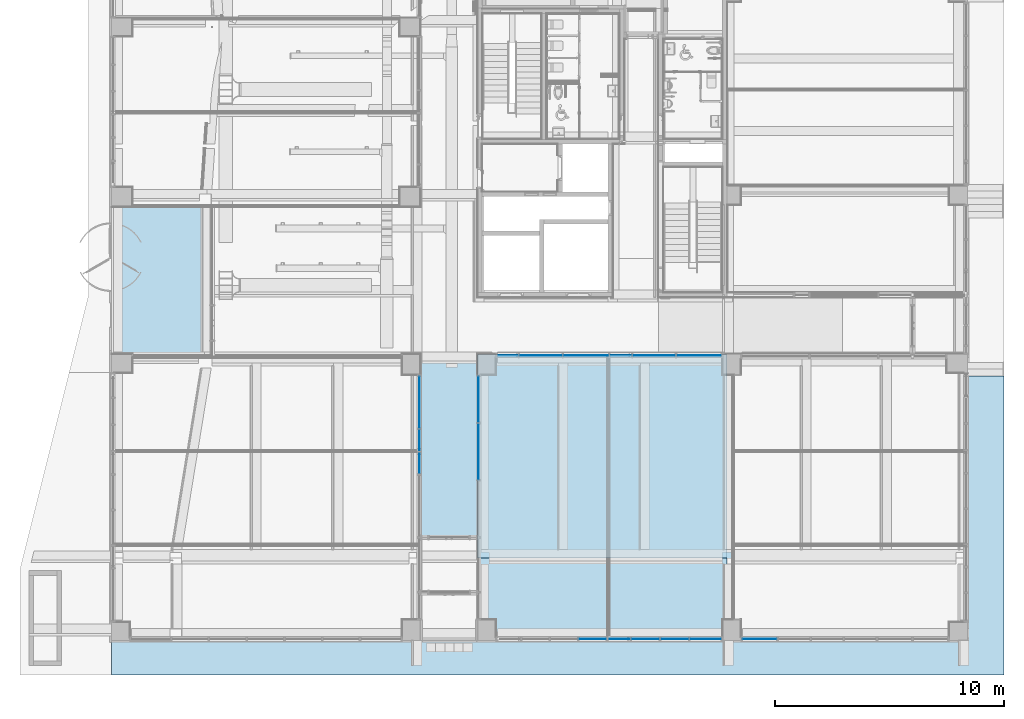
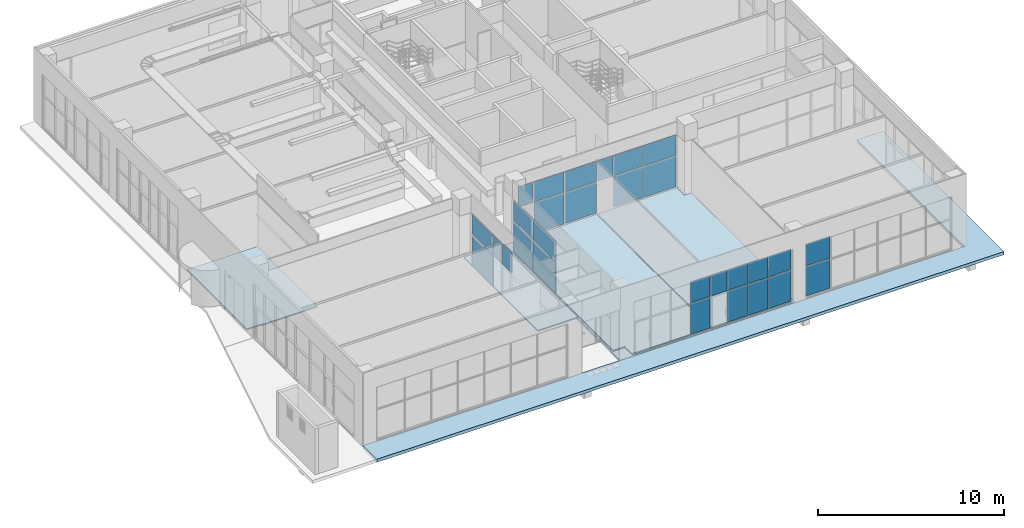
# One storey, part 23 of 100: 29 plates, 7 slabs, 5 elements without a shape of their own.
"""IFC2X3 building model written with IfcOpenShell, lengths in millimetres."""

from ifc_helpers import new_model, entity, si_unit, converted_unit, derived_unit, direction, frame, frame_2d, origin, origin_2d_with_axis, place, context, subcontext, project, spatial, polyline, rectangle, outline, extrude, source, transform, mapped, material, layer, layer_set, layer_usage, type_object, type_shapes, element, aggregate, save


model = new_model("IFC2X3")

# Units and contexts
model_context = context("Model", 3, precision=0.01, world=origin(), true_north=direction((6.123031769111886e-17, 1.0)))
body_context = subcontext(model_context, "Body", "Model", "MODEL_VIEW")
ifc_project = project(units=[si_unit("LENGTHUNIT", "METRE", prefix="MILLI"), si_unit("AREAUNIT", "SQUARE_METRE"), si_unit("VOLUMEUNIT", "CUBIC_METRE"), converted_unit("PLANEANGLEUNIT", "DEGREE", entity("IfcRatioMeasure", 0.017453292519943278), si_unit("PLANEANGLEUNIT", "RADIAN"), dimensions=[0, 0, 0, 0, 0, 0, 0]), si_unit("MASSUNIT", "GRAM", prefix="KILO"), derived_unit("MASSDENSITYUNIT", [(si_unit("MASSUNIT", "GRAM", prefix="KILO"), 1), (si_unit("LENGTHUNIT", "METRE"), -3)]), derived_unit("MOMENTOFINERTIAUNIT", [(si_unit("LENGTHUNIT", "METRE"), 4)]), si_unit("TIMEUNIT", "SECOND"), si_unit("FREQUENCYUNIT", "HERTZ"), si_unit("THERMODYNAMICTEMPERATUREUNIT", "DEGREE_CELSIUS"), derived_unit("THERMALTRANSMITTANCEUNIT", [(si_unit("MASSUNIT", "GRAM", prefix="KILO"), 1), (si_unit("THERMODYNAMICTEMPERATUREUNIT", "KELVIN"), -1), (si_unit("TIMEUNIT", "SECOND"), -3)]), derived_unit("VOLUMETRICFLOWRATEUNIT", [(si_unit("LENGTHUNIT", "METRE"), 3), (si_unit("TIMEUNIT", "SECOND"), -1)]), derived_unit("MASSFLOWRATEUNIT", [(si_unit("MASSUNIT", "GRAM", prefix="KILO"), 1), (si_unit("TIMEUNIT", "SECOND"), -1)]), derived_unit("ROTATIONALFREQUENCYUNIT", [(si_unit("TIMEUNIT", "SECOND"), -1)]), si_unit("ELECTRICCURRENTUNIT", "AMPERE"), si_unit("ELECTRICVOLTAGEUNIT", "VOLT"), si_unit("POWERUNIT", "WATT"), si_unit("FORCEUNIT", "NEWTON", prefix="KILO"), si_unit("ILLUMINANCEUNIT", "LUX"), si_unit("LUMINOUSFLUXUNIT", "LUMEN"), si_unit("LUMINOUSINTENSITYUNIT", "CANDELA"), derived_unit("USERDEFINED", [(si_unit("MASSUNIT", "GRAM", prefix="KILO"), -1), (si_unit("LENGTHUNIT", "METRE"), -2), (si_unit("TIMEUNIT", "SECOND"), 3), (si_unit("LUMINOUSFLUXUNIT", "LUMEN"), 1)]), derived_unit("SOUNDPOWERUNIT", [(si_unit("MASSUNIT", "GRAM", prefix="KILO"), 1), (si_unit("LENGTHUNIT", "METRE"), 2), (si_unit("TIMEUNIT", "SECOND"), -3)]), derived_unit("SOUNDPRESSUREUNIT", [(si_unit("MASSUNIT", "GRAM", prefix="KILO"), 1), (si_unit("LENGTHUNIT", "METRE"), -1), (si_unit("TIMEUNIT", "SECOND"), -2)]), derived_unit("LINEARVELOCITYUNIT", [(si_unit("LENGTHUNIT", "METRE"), 1), (si_unit("TIMEUNIT", "SECOND"), -1)]), si_unit("PRESSUREUNIT", "PASCAL"), derived_unit("USERDEFINED", [(si_unit("LENGTHUNIT", "METRE"), -2), (si_unit("MASSUNIT", "GRAM", prefix="KILO"), 1), (si_unit("TIMEUNIT", "SECOND"), -2)]), derived_unit("LINEARFORCEUNIT", [(si_unit("MASSUNIT", "GRAM", prefix="KILO"), 1), (si_unit("LENGTHUNIT", "METRE"), 1), (si_unit("TIMEUNIT", "SECOND"), -2), (si_unit("LENGTHUNIT", "METRE"), -1)]), derived_unit("PLANARFORCEUNIT", [(si_unit("MASSUNIT", "GRAM", prefix="KILO"), 1), (si_unit("LENGTHUNIT", "METRE"), 1), (si_unit("TIMEUNIT", "SECOND"), -2), (si_unit("LENGTHUNIT", "METRE"), -2)])], contexts=[model_context])

# Site, building, storey
site_placement = place(None, frame((-14167.972527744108, -657.2125860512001, 0.0)))
site = spatial("IfcSite", under=ifc_project, at=site_placement, Name="Default", CompositionType="ELEMENT")
building_placement = place(site_placement, origin())
building = spatial("IfcBuilding", under=site, at=building_placement, Name="Sample Building", CompositionType="ELEMENT")
storey_placement = place(building_placement, origin())
storey = spatial("IfcBuildingStorey", under=building, at=storey_placement, Name="지상 1층", CompositionType="ELEMENT", Elevation=0.0)

# Slabs
ifc_material_1 = material(Name="KBIMS-콘크리트")
ifc_layer_1 = layer(ifc_material_1, 150.0)
ifc_layer_set_1 = layer_set([ifc_layer_1], Name="바닥:SL111-철근콘크리트구조 바닥 150mm_S2")
ifc_layer_usage_1 = layer_usage(ifc_layer_set_1, "AXIS3", "POSITIVE", 0.0)
slab_type_1 = type_object("IfcSlabType", Name="바닥:SL111-철근콘크리트구조 바닥 150mm_S2", PredefinedType="FLOOR", material=ifc_layer_set_1)
slab_1_placement = place(storey_placement, origin())
element("IfcSlab", 1, at=slab_1_placement, inside=storey, type_object=slab_type_1, material=ifc_layer_usage_1, Name="바닥:SL111-철근콘크리트구조 바닥 150mm_S2", ObjectType="바닥:SL111-철근콘크리트구조 바닥 150mm_S2", PredefinedType="FLOOR", context=body_context, shape_type="SweptSolid", body=[
    extrude(rectangle(XDim=8899.999999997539, YDim=10900.008692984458, at=frame_2d((0.0, -8.640199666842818e-12), x_axis=(1.0, 0.0))), frame((35517.95945165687, 8607.212383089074, 0.0), z_axis=(0.0, 0.0, -1.0), x_axis=(0.0, 1.0, 0.0)), (0.0, 0.0, 1.0), 150.0),
])
ifc_material_2 = material(Name="SL341-테라조 바닥 (바탕48mm, 마감32mm)")
ifc_layer_2 = layer(ifc_material_2, 80.0)
ifc_layer_set_2 = layer_set([ifc_layer_2], Name="바닥:A1-14-06B-테라조타일 (80mm)")
ifc_layer_usage_2 = layer_usage(ifc_layer_set_2, "AXIS3", "POSITIVE", 0.0)
slab_type_2 = type_object("IfcSlabType", Name="바닥:A1-14-06B-테라조타일 (80mm)", PredefinedType="FLOOR", material=ifc_layer_set_2)
slab_2_placement = place(storey_placement, origin())
element("IfcSlab", 2, at=slab_2_placement, inside=storey, type_object=slab_type_2, material=ifc_layer_usage_2, Name="바닥:A1-14-06B-테라조타일 (80mm)", ObjectType="바닥:A1-14-06B-테라조타일 (80mm)", PredefinedType="FLOOR", context=body_context, shape_type="SweptSolid", body=[
    extrude(outline(polyline([(-5358.75006630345, -1754.3739133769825), (5341.249933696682, -1754.3739133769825), (5341.249933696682, -1044.3739133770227), (6151.250211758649, -1044.3739133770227), (6151.250211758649, 3843.1217401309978), (-6133.750079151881, 3843.1217401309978), (-6133.750079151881, -1044.373913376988), (-5358.75006630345, -1044.373913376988), (-5358.75006630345, -1754.3739133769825)])), frame((31912.346404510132, 6815.962374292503, 80.0), z_axis=(0.0, 0.0, -1.0), x_axis=(0.0, 1.0, 0.0)), (0.0, 0.0, 1.0), 80.0),
])
ifc_material_3 = material(Name="SL312-화강석물갈기 바닥 (바탕30mm, 마감30mm)")
ifc_layer_3 = layer(ifc_material_3, 80.0)
ifc_layer_set_3 = layer_set([ifc_layer_3], Name="바닥:A1-15-01B-화강석(물갈기) (80mm)")
ifc_layer_usage_3 = layer_usage(ifc_layer_set_3, "AXIS3", "POSITIVE", 0.0)
slab_type_3 = type_object("IfcSlabType", Name="바닥:A1-15-01B-화강석(물갈기) (80mm)", PredefinedType="FLOOR", material=ifc_layer_set_3)
slab_3_placement = place(storey_placement, origin())
element("IfcSlab", 3, at=slab_3_placement, inside=storey, type_object=slab_type_3, material=ifc_layer_usage_3, Name="바닥:A1-15-01B-화강석(물갈기) (80mm)", ObjectType="바닥:A1-15-01B-화강석(물갈기) (80mm)", PredefinedType="FLOOR", context=body_context, shape_type="SweptSolid", body=[
    extrude(rectangle(XDim=7950.034670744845, YDim=2499.9999999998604, at=frame_2d((1.8189894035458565e-12, 0.0), x_axis=(1.0, 0.0))), frame((28817.972491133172, 9082.194959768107, 80.0), z_axis=(0.0, 0.0, -1.0), x_axis=(0.0, 1.0, 0.0)), (0.0, 0.0, 1.0), 80.0),
])

# Curtain wall, plates
curtain_wall_type = type_object("IfcCurtainWallType", Name="커튼월:CW112-스테인리스 스틸 커튼월", PredefinedType="NOTDEFINED")
curtain_wall_1_placement = place(storey_placement, origin())
curtain_wall_1 = element("IfcCurtainWall", 4, at=curtain_wall_1_placement, inside=storey, type_object=curtain_wall_type, Name="커튼월:CW112-스테인리스 스틸 커튼월", ObjectType="커튼월:CW112-스테인리스 스틸 커튼월")
ifc_material_4 = material(Name="KBIMS-로이유리(코팅)")
plate_type_1 = type_object("IfcPlateType", Name="CW300-THK24.Low-e coating glass:CW300-THK24.Low-e coating glass", PredefinedType="CURTAIN_PANEL", material=ifc_material_4)
shared_shape_1 = source(origin(), body_context, "Body", "SweptSolid", [
    extrude(rectangle(XDim=950.0000000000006, YDim=24.000000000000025, at=origin_2d_with_axis()), frame((0.0, 0.0, 0.0), z_axis=(0.0, 0.0, 1.0), x_axis=(-1.0, 0.0, 0.0)), (0.0, 0.0, 1.0), 1345.000000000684),
])
type_shapes(plate_type_1, [shared_shape_1])
plate_1_placement = place(curtain_wall_1_placement, frame((27522.955141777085, 8307.212330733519, 2205.0), z_axis=(0.0, 0.0, 1.0), x_axis=(0.0, 1.0, 0.0)))
plate_1 = element("IfcPlate", 5, at=plate_1_placement, type_object=plate_type_1, material=ifc_material_4, Name="CW300-THK24.Low-e coating glass:CW300-THK24.Low-e coating glass", ObjectType="CW300-THK24.Low-e coating glass:CW300-THK24.Low-e coating glass", context=body_context, shape_type="MappedRepresentation", body=[
    mapped(shared_shape_1, transform((0.0, 0.0, 0.0), scale=1.0)),
])
plate_2_placement = place(curtain_wall_1_placement, frame((27522.95514177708, 9307.212330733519, 2205.0), z_axis=(0.0, 0.0, 1.0), x_axis=(0.0, 1.0, 0.0)))
plate_2 = element("IfcPlate", 6, at=plate_2_placement, type_object=plate_type_1, material=ifc_material_4, Name="CW300-THK24.Low-e coating glass:CW300-THK24.Low-e coating glass", ObjectType="CW300-THK24.Low-e coating glass:CW300-THK24.Low-e coating glass", context=body_context, shape_type="MappedRepresentation", body=[
    mapped(shared_shape_1, transform((0.0, 0.0, 0.0), scale=1.0)),
])

# Curtain wall, plate
curtain_wall_2_placement = place(storey_placement, origin())
curtain_wall_2 = element("IfcCurtainWall", 7, at=curtain_wall_2_placement, inside=storey, type_object=curtain_wall_type, Name="커튼월:CW112-스테인리스 스틸 커튼월", ObjectType="커튼월:CW112-스테인리스 스틸 커튼월")
plate_3_placement = place(curtain_wall_2_placement, frame((36317.97249113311, 13012.212586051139, 2205.0)))
plate_3 = element("IfcPlate", 8, at=plate_3_placement, type_object=plate_type_1, material=ifc_material_4, Name="CW300-THK24.Low-e coating glass:CW300-THK24.Low-e coating glass", ObjectType="CW300-THK24.Low-e coating glass:CW300-THK24.Low-e coating glass", context=body_context, shape_type="MappedRepresentation", body=[
    mapped(shared_shape_1, transform((0.0, 0.0, 0.0), scale=1.0)),
])

# Curtain wall, plates
curtain_wall_3_placement = place(storey_placement, origin())
curtain_wall_3 = element("IfcCurtainWall", 9, at=curtain_wall_3_placement, inside=storey, type_object=curtain_wall_type, Name="커튼월:CW112-스테인리스 스틸 커튼월", ObjectType="커튼월:CW112-스테인리스 스틸 커튼월")
plate_type_2 = type_object("IfcPlateType", Name="CW300-THK24.Low-e coating glass:CW300-THK24.Low-e coating glass", PredefinedType="CURTAIN_PANEL", material=ifc_material_4)
shared_shape_2 = source(origin(), body_context, "Body", "SweptSolid", [
    extrude(rectangle(XDim=1200.000000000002, YDim=24.000000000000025, at=origin_2d_with_axis()), frame((0.0, 0.0, 0.0), z_axis=(0.0, 0.0, 1.0), x_axis=(-1.0, 0.0, 0.0)), (0.0, 0.0, 1.0), 2024.9999999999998),
])
type_shapes(plate_type_2, [shared_shape_2])
plate_4_placement = place(curtain_wall_3_placement, frame((35092.97249113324, 619.7122951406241, 130.0)))
plate_4 = element("IfcPlate", 10, at=plate_4_placement, type_object=plate_type_2, material=ifc_material_4, Name="CW300-THK24.Low-e coating glass:CW300-THK24.Low-e coating glass", ObjectType="CW300-THK24.Low-e coating glass:CW300-THK24.Low-e coating glass", context=body_context, shape_type="MappedRepresentation", body=[
    mapped(shared_shape_2, transform((0.0, 0.0, 0.0), scale=1.0)),
])
plate_type_3 = type_object("IfcPlateType", Name="CW300-THK24.Low-e coating glass:CW300-THK24.Low-e coating glass", PredefinedType="CURTAIN_PANEL", material=ifc_material_4)
shared_shape_3 = source(origin(), body_context, "Body", "SweptSolid", [
    extrude(rectangle(XDim=1230.0000000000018, YDim=24.000000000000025, at=origin_2d_with_axis()), frame((0.0, 0.0, 0.0), z_axis=(0.0, 0.0, 1.0), x_axis=(-1.0, 0.0, 0.0)), (0.0, 0.0, 1.0), 2024.9999999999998),
])
type_shapes(plate_type_3, [shared_shape_3])
plate_5_placement = place(curtain_wall_3_placement, frame((37397.972491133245, 619.7122951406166, 130.0)))
plate_5 = element("IfcPlate", 11, at=plate_5_placement, type_object=plate_type_3, material=ifc_material_4, Name="CW300-THK24.Low-e coating glass:CW300-THK24.Low-e coating glass", ObjectType="CW300-THK24.Low-e coating glass:CW300-THK24.Low-e coating glass", context=body_context, shape_type="MappedRepresentation", body=[
    mapped(shared_shape_3, transform((0.0, 0.0, 0.0), scale=1.0)),
])
plate_6_placement = place(curtain_wall_3_placement, frame((38677.97249113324, 619.7122951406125, 130.0)))
plate_6 = element("IfcPlate", 12, at=plate_6_placement, type_object=plate_type_3, material=ifc_material_4, Name="CW300-THK24.Low-e coating glass:CW300-THK24.Low-e coating glass", ObjectType="CW300-THK24.Low-e coating glass:CW300-THK24.Low-e coating glass", context=body_context, shape_type="MappedRepresentation", body=[
    mapped(shared_shape_3, transform((0.0, 0.0, 0.0), scale=1.0)),
])
plate_type_4 = type_object("IfcPlateType", Name="CW300-THK24.Low-e coating glass:CW300-THK24.Low-e coating glass", PredefinedType="CURTAIN_PANEL", material=ifc_material_4)
shared_shape_4 = source(origin(), body_context, "Body", "SweptSolid", [
    extrude(rectangle(XDim=1375.0000000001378, YDim=24.000000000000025, at=origin_2d_with_axis()), frame((0.0, 0.0, 0.0), z_axis=(0.0, 0.0, 1.0), x_axis=(-1.0, 0.0, 0.0)), (0.0, 0.0, 1.0), 2024.9999999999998),
])
type_shapes(plate_type_4, [shared_shape_4])
plate_7_placement = place(curtain_wall_3_placement, frame((40030.47249113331, 619.712295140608, 130.0)))
plate_7 = element("IfcPlate", 13, at=plate_7_placement, type_object=plate_type_4, material=ifc_material_4, Name="CW300-THK24.Low-e coating glass:CW300-THK24.Low-e coating glass", ObjectType="CW300-THK24.Low-e coating glass:CW300-THK24.Low-e coating glass", context=body_context, shape_type="MappedRepresentation", body=[
    mapped(shared_shape_4, transform((0.0, 0.0, 0.0), scale=1.0)),
])
plate_type_5 = type_object("IfcPlateType", Name="CW300-THK24.Low-e coating glass:CW300-THK24.Low-e coating glass", PredefinedType="CURTAIN_PANEL", material=ifc_material_4)
shared_shape_5 = source(origin(), body_context, "Body", "SweptSolid", [
    extrude(rectangle(XDim=1200.000000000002, YDim=24.000000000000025, at=origin_2d_with_axis()), frame((0.0, 0.0, 0.0), z_axis=(0.0, 0.0, 1.0), x_axis=(-1.0, 0.0, 0.0)), (0.0, 0.0, 1.0), 1345.000000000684),
])
type_shapes(plate_type_5, [shared_shape_5])
plate_8_placement = place(curtain_wall_3_placement, frame((35092.97249113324, 619.7122951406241, 2205.0)))
plate_8 = element("IfcPlate", 14, at=plate_8_placement, type_object=plate_type_5, material=ifc_material_4, Name="CW300-THK24.Low-e coating glass:CW300-THK24.Low-e coating glass", ObjectType="CW300-THK24.Low-e coating glass:CW300-THK24.Low-e coating glass", context=body_context, shape_type="MappedRepresentation", body=[
    mapped(shared_shape_5, transform((0.0, 0.0, 0.0), scale=1.0)),
])
plate_type_6 = type_object("IfcPlateType", Name="CW300-THK24.Low-e coating glass:CW300-THK24.Low-e coating glass", PredefinedType="CURTAIN_PANEL", material=ifc_material_4)
shared_shape_6 = source(origin(), body_context, "Body", "SweptSolid", [
    extrude(rectangle(XDim=990.0000000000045, YDim=24.000000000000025, at=origin_2d_with_axis()), frame((0.0, 0.0, 0.0), z_axis=(0.0, 0.0, 1.0), x_axis=(-1.0, 0.0, 0.0)), (0.0, 0.0, 1.0), 1345.0000000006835),
])
type_shapes(plate_type_6, [shared_shape_6])
plate_9_placement = place(curtain_wall_3_placement, frame((36237.97249113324, 619.7122951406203, 2205.0)))
plate_9 = element("IfcPlate", 15, at=plate_9_placement, type_object=plate_type_6, material=ifc_material_4, Name="CW300-THK24.Low-e coating glass:CW300-THK24.Low-e coating glass", ObjectType="CW300-THK24.Low-e coating glass:CW300-THK24.Low-e coating glass", context=body_context, shape_type="MappedRepresentation", body=[
    mapped(shared_shape_6, transform((0.0, 0.0, 0.0), scale=1.0)),
])
plate_type_7 = type_object("IfcPlateType", Name="CW300-THK24.Low-e coating glass:CW300-THK24.Low-e coating glass", PredefinedType="CURTAIN_PANEL", material=ifc_material_4)
shared_shape_7 = source(origin(), body_context, "Body", "SweptSolid", [
    extrude(rectangle(XDim=1230.0000000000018, YDim=24.000000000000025, at=origin_2d_with_axis()), frame((0.0, 0.0, 0.0), z_axis=(0.0, 0.0, 1.0), x_axis=(-1.0, 0.0, 0.0)), (0.0, 0.0, 1.0), 1345.0000000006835),
])
type_shapes(plate_type_7, [shared_shape_7])
plate_10_placement = place(curtain_wall_3_placement, frame((37397.972491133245, 619.7122951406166, 2205.0)))
plate_10 = element("IfcPlate", 16, at=plate_10_placement, type_object=plate_type_7, material=ifc_material_4, Name="CW300-THK24.Low-e coating glass:CW300-THK24.Low-e coating glass", ObjectType="CW300-THK24.Low-e coating glass:CW300-THK24.Low-e coating glass", context=body_context, shape_type="MappedRepresentation", body=[
    mapped(shared_shape_7, transform((0.0, 0.0, 0.0), scale=1.0)),
])
plate_11_placement = place(curtain_wall_3_placement, frame((38677.97249113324, 619.7122951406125, 2205.0)))
plate_11 = element("IfcPlate", 17, at=plate_11_placement, type_object=plate_type_7, material=ifc_material_4, Name="CW300-THK24.Low-e coating glass:CW300-THK24.Low-e coating glass", ObjectType="CW300-THK24.Low-e coating glass:CW300-THK24.Low-e coating glass", context=body_context, shape_type="MappedRepresentation", body=[
    mapped(shared_shape_7, transform((0.0, 0.0, 0.0), scale=1.0)),
])
plate_type_8 = type_object("IfcPlateType", Name="CW300-THK24.Low-e coating glass:CW300-THK24.Low-e coating glass", PredefinedType="CURTAIN_PANEL", material=ifc_material_4)
shared_shape_8 = source(origin(), body_context, "Body", "SweptSolid", [
    extrude(rectangle(XDim=1375.0000000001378, YDim=24.000000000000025, at=origin_2d_with_axis()), frame((0.0, 0.0, 0.0), z_axis=(0.0, 0.0, 1.0), x_axis=(-1.0, 0.0, 0.0)), (0.0, 0.0, 1.0), 1345.0000000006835),
])
type_shapes(plate_type_8, [shared_shape_8])
plate_12_placement = place(curtain_wall_3_placement, frame((40030.47249113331, 619.712295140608, 2205.0)))
plate_12 = element("IfcPlate", 18, at=plate_12_placement, type_object=plate_type_8, material=ifc_material_4, Name="CW300-THK24.Low-e coating glass:CW300-THK24.Low-e coating glass", ObjectType="CW300-THK24.Low-e coating glass:CW300-THK24.Low-e coating glass", context=body_context, shape_type="MappedRepresentation", body=[
    mapped(shared_shape_8, transform((0.0, 0.0, 0.0), scale=1.0)),
])
aggregate(curtain_wall_3, [plate_4, plate_5, plate_6, plate_7, plate_8, plate_9, plate_10, plate_11, plate_12])

curtain_wall_4_placement = place(storey_placement, origin())
curtain_wall_4 = element("IfcCurtainWall", 19, at=curtain_wall_4_placement, inside=storey, type_object=curtain_wall_type, Name="커튼월:CW112-스테인리스 스틸 커튼월", ObjectType="커튼월:CW112-스테인리스 스틸 커튼월")
plate_type_9 = type_object("IfcPlateType", Name="CW300-THK24.Low-e coating glass:CW300-THK24.Low-e coating glass", PredefinedType="CURTAIN_PANEL", material=ifc_material_4)
shared_shape_9 = source(origin(), body_context, "Body", "SweptSolid", [
    extrude(rectangle(XDim=1507.3538077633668, YDim=24.000000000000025, at=origin_2d_with_axis()), frame((0.0, 0.0, 0.0), z_axis=(0.0, 0.0, 1.0), x_axis=(-1.0, 0.0, 0.0)), (0.0, 0.0, 1.0), 1924.9999999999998),
])
type_shapes(plate_type_9, [shared_shape_9])
plate_13_placement = place(curtain_wall_4_placement, frame((42389.64939501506, 619.712295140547, 130.0)))
plate_13 = element("IfcPlate", 20, at=plate_13_placement, type_object=plate_type_9, material=ifc_material_4, Name="CW300-THK24.Low-e coating glass:CW300-THK24.Low-e coating glass", ObjectType="CW300-THK24.Low-e coating glass:CW300-THK24.Low-e coating glass", context=body_context, shape_type="MappedRepresentation", body=[
    mapped(shared_shape_9, transform((0.0, 0.0, 0.0), scale=1.0)),
])
plate_type_10 = type_object("IfcPlateType", Name="CW300-THK24.Low-e coating glass:CW300-THK24.Low-e coating glass", PredefinedType="CURTAIN_PANEL", material=ifc_material_4)
shared_shape_10 = source(origin(), body_context, "Body", "SweptSolid", [
    extrude(rectangle(XDim=1507.3538077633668, YDim=24.000000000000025, at=origin_2d_with_axis()), frame((0.0, 0.0, 0.0), z_axis=(0.0, 0.0, 1.0), x_axis=(-1.0, 0.0, 0.0)), (0.0, 0.0, 1.0), 1445.000000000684),
])
type_shapes(plate_type_10, [shared_shape_10])
plate_14_placement = place(curtain_wall_4_placement, frame((42389.64939501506, 619.712295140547, 2105.0)))
plate_14 = element("IfcPlate", 21, at=plate_14_placement, type_object=plate_type_10, material=ifc_material_4, Name="CW300-THK24.Low-e coating glass:CW300-THK24.Low-e coating glass", ObjectType="CW300-THK24.Low-e coating glass:CW300-THK24.Low-e coating glass", context=body_context, shape_type="MappedRepresentation", body=[
    mapped(shared_shape_10, transform((0.0, 0.0, 0.0), scale=1.0)),
])
aggregate(curtain_wall_4, [plate_13, plate_14])

# Plate
plate_type_11 = type_object("IfcPlateType", Name="CW300-THK24.Low-e coating glass:CW300-THK24.Low-e coating glass", PredefinedType="CURTAIN_PANEL", material=ifc_material_4)
shared_shape_11 = source(origin(), body_context, "Body", "SweptSolid", [
    extrude(rectangle(XDim=2275.0002863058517, YDim=24.000000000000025, at=origin_2d_with_axis()), frame((0.0, 0.0, 0.0), z_axis=(0.0, 0.0, 1.0), x_axis=(-1.0, 0.0, 0.0)), (0.0, 0.0, 1.0), 2025.0000000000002),
])
type_shapes(plate_type_11, [shared_shape_11])
plate_15_placement = place(curtain_wall_1_placement, frame((27522.955141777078, 10969.712473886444, 130.0), z_axis=(0.0, 0.0, 1.0), x_axis=(0.0, 1.0, 0.0)))
plate_15 = element("IfcPlate", 22, at=plate_15_placement, type_object=plate_type_11, material=ifc_material_4, Name="CW300-THK24.Low-e coating glass:CW300-THK24.Low-e coating glass", ObjectType="CW300-THK24.Low-e coating glass:CW300-THK24.Low-e coating glass", context=body_context, shape_type="MappedRepresentation", body=[
    mapped(shared_shape_11, transform((0.0, 0.0, 0.0), scale=1.0)),
])

plate_type_12 = type_object("IfcPlateType", Name="CW300-THK24.Low-e coating glass:CW300-THK24.Low-e coating glass", PredefinedType="CURTAIN_PANEL", material=ifc_material_4)
shared_shape_12 = source(origin(), body_context, "Body", "SweptSolid", [
    extrude(rectangle(XDim=2275.0002863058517, YDim=24.000000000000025, at=origin_2d_with_axis()), frame((0.0, 0.0, 0.0), z_axis=(0.0, 0.0, 1.0), x_axis=(-1.0, 0.0, 0.0)), (0.0, 0.0, 1.0), 1345.0000000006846),
])
type_shapes(plate_type_12, [shared_shape_12])
plate_16_placement = place(curtain_wall_1_placement, frame((27522.955141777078, 10969.712473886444, 2205.0), z_axis=(0.0, 0.0, 1.0), x_axis=(0.0, 1.0, 0.0)))
plate_16 = element("IfcPlate", 23, at=plate_16_placement, type_object=plate_type_12, material=ifc_material_4, Name="CW300-THK24.Low-e coating glass:CW300-THK24.Low-e coating glass", ObjectType="CW300-THK24.Low-e coating glass:CW300-THK24.Low-e coating glass", context=body_context, shape_type="MappedRepresentation", body=[
    mapped(shared_shape_12, transform((0.0, 0.0, 0.0), scale=1.0)),
])

aggregate(curtain_wall_1, [plate_15, plate_1, plate_2, plate_16])

# Curtain wall, plates
curtain_wall_5_placement = place(storey_placement, origin())
curtain_wall_5 = element("IfcCurtainWall", 24, at=curtain_wall_5_placement, inside=storey, type_object=curtain_wall_type, Name="커튼월:CW112-스테인리스 스틸 커튼월", ObjectType="커튼월:CW112-스테인리스 스틸 커튼월")
plate_type_13 = type_object("IfcPlateType", Name="CW300-THK24.Low-e coating glass:CW300-THK24.Low-e coating glass", PredefinedType="CURTAIN_PANEL", material=ifc_material_4)
shared_shape_13 = source(origin(), body_context, "Body", "SweptSolid", [
    extrude(rectangle(XDim=2025.0002863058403, YDim=24.000000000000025, at=origin_2d_with_axis()), frame((0.0, 0.0, 0.0), z_axis=(0.0, 0.0, 1.0), x_axis=(-1.0, 0.0, 0.0)), (0.0, 0.0, 1.0), 2024.9999999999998),
])
type_shapes(plate_type_13, [shared_shape_13])
plate_17_placement = place(curtain_wall_5_placement, frame((30112.97249113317, 11094.712473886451, 130.0), z_axis=(0.0, 0.0, 1.0), x_axis=(0.0, -1.0, 0.0)))
plate_17 = element("IfcPlate", 25, at=plate_17_placement, type_object=plate_type_13, material=ifc_material_4, Name="CW300-THK24.Low-e coating glass:CW300-THK24.Low-e coating glass", ObjectType="CW300-THK24.Low-e coating glass:CW300-THK24.Low-e coating glass", context=body_context, shape_type="MappedRepresentation", body=[
    mapped(shared_shape_13, transform((0.0, 0.0, 0.0), scale=1.0)),
])
plate_type_14 = type_object("IfcPlateType", Name="CW300-THK24.Low-e coating glass:CW300-THK24.Low-e coating glass", PredefinedType="CURTAIN_PANEL", material=ifc_material_4)
shared_shape_14 = source(origin(), body_context, "Body", "SweptSolid", [
    extrude(rectangle(XDim=2449.9999999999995, YDim=24.000000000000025, at=origin_2d_with_axis()), frame((0.0, 0.0, 0.0), z_axis=(0.0, 0.0, 1.0), x_axis=(-1.0, 0.0, 0.0)), (0.0, 0.0, 1.0), 2024.9999999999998),
])
type_shapes(plate_type_14, [shared_shape_14])
plate_18_placement = place(curtain_wall_5_placement, frame((30112.972491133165, 8807.212330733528, 130.0), z_axis=(0.0, 0.0, 1.0), x_axis=(0.0, -1.0, 0.0)))
plate_18 = element("IfcPlate", 26, at=plate_18_placement, type_object=plate_type_14, material=ifc_material_4, Name="CW300-THK24.Low-e coating glass:CW300-THK24.Low-e coating glass", ObjectType="CW300-THK24.Low-e coating glass:CW300-THK24.Low-e coating glass", context=body_context, shape_type="MappedRepresentation", body=[
    mapped(shared_shape_14, transform((0.0, 0.0, 0.0), scale=1.0)),
])
plate_type_15 = type_object("IfcPlateType", Name="CW300-THK24.Low-e coating glass:CW300-THK24.Low-e coating glass", PredefinedType="CURTAIN_PANEL", material=ifc_material_4)
shared_shape_15 = source(origin(), body_context, "Body", "SweptSolid", [
    extrude(rectangle(XDim=2025.0002863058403, YDim=24.000000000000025, at=origin_2d_with_axis()), frame((0.0, 0.0, 0.0), z_axis=(0.0, 0.0, 1.0), x_axis=(-1.0, 0.0, 0.0)), (0.0, 0.0, 1.0), 1345.0000000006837),
])
type_shapes(plate_type_15, [shared_shape_15])
plate_19_placement = place(curtain_wall_5_placement, frame((30112.97249113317, 11094.712473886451, 2205.0), z_axis=(0.0, 0.0, 1.0), x_axis=(0.0, -1.0, 0.0)))
plate_19 = element("IfcPlate", 27, at=plate_19_placement, type_object=plate_type_15, material=ifc_material_4, Name="CW300-THK24.Low-e coating glass:CW300-THK24.Low-e coating glass", ObjectType="CW300-THK24.Low-e coating glass:CW300-THK24.Low-e coating glass", context=body_context, shape_type="MappedRepresentation", body=[
    mapped(shared_shape_15, transform((0.0, 0.0, 0.0), scale=1.0)),
])
plate_type_16 = type_object("IfcPlateType", Name="CW300-THK24.Low-e coating glass:CW300-THK24.Low-e coating glass", PredefinedType="CURTAIN_PANEL", material=ifc_material_4)
shared_shape_16 = source(origin(), body_context, "Body", "SweptSolid", [
    extrude(rectangle(XDim=2450.000000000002, YDim=24.000000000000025, at=origin_2d_with_axis()), frame((0.0, 0.0, 0.0), z_axis=(0.0, 0.0, 1.0), x_axis=(-1.0, 0.0, 0.0)), (0.0, 0.0, 1.0), 1345.000000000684),
])
type_shapes(plate_type_16, [shared_shape_16])
plate_20_placement = place(curtain_wall_5_placement, frame((30112.972491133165, 8807.212330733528, 2205.0), z_axis=(0.0, 0.0, 1.0), x_axis=(0.0, -1.0, 0.0)))
plate_20 = element("IfcPlate", 28, at=plate_20_placement, type_object=plate_type_16, material=ifc_material_4, Name="CW300-THK24.Low-e coating glass:CW300-THK24.Low-e coating glass", ObjectType="CW300-THK24.Low-e coating glass:CW300-THK24.Low-e coating glass", context=body_context, shape_type="MappedRepresentation", body=[
    mapped(shared_shape_16, transform((0.0, 0.0, 0.0), scale=1.0)),
])
aggregate(curtain_wall_5, [plate_17, plate_18, plate_19, plate_20])

# Plate
plate_type_17 = type_object("IfcPlateType", Name="CW300-THK24.Low-e coating glass:CW300-THK24.Low-e coating glass", PredefinedType="CURTAIN_PANEL", material=ifc_material_4)
shared_shape_17 = source(origin(), body_context, "Body", "SweptSolid", [
    extrude(rectangle(XDim=1875.0000000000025, YDim=24.000000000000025, at=origin_2d_with_axis()), frame((0.0, 0.0, 0.0), z_axis=(0.0, 0.0, 1.0), x_axis=(-1.0, 0.0, 0.0)), (0.0, 0.0, 1.0), 2024.9999999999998),
])
type_shapes(plate_type_17, [shared_shape_17])
plate_21_placement = place(curtain_wall_2_placement, frame((32830.472491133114, 13012.21258605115, 130.0)))
plate_21 = element("IfcPlate", 29, at=plate_21_placement, type_object=plate_type_17, material=ifc_material_4, Name="CW300-THK24.Low-e coating glass:CW300-THK24.Low-e coating glass", ObjectType="CW300-THK24.Low-e coating glass:CW300-THK24.Low-e coating glass", context=body_context, shape_type="MappedRepresentation", body=[
    mapped(shared_shape_17, transform((0.0, 0.0, 0.0), scale=1.0)),
])

plate_type_18 = type_object("IfcPlateType", Name="CW300-THK24.Low-e coating glass:CW300-THK24.Low-e coating glass", PredefinedType="CURTAIN_PANEL", material=ifc_material_4)
shared_shape_18 = source(origin(), body_context, "Body", "SweptSolid", [
    extrude(rectangle(XDim=1975.0000000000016, YDim=24.000000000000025, at=origin_2d_with_axis()), frame((0.0, 0.0, 0.0), z_axis=(0.0, 0.0, 1.0), x_axis=(-1.0, 0.0, 0.0)), (0.0, 0.0, 1.0), 2024.9999999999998),
])
type_shapes(plate_type_18, [shared_shape_18])
plate_22_placement = place(curtain_wall_2_placement, frame((34805.472491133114, 13012.212586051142, 130.0)))
plate_22 = element("IfcPlate", 30, at=plate_22_placement, type_object=plate_type_18, material=ifc_material_4, Name="CW300-THK24.Low-e coating glass:CW300-THK24.Low-e coating glass", ObjectType="CW300-THK24.Low-e coating glass:CW300-THK24.Low-e coating glass", context=body_context, shape_type="MappedRepresentation", body=[
    mapped(shared_shape_18, transform((0.0, 0.0, 0.0), scale=1.0)),
])

plate_type_19 = type_object("IfcPlateType", Name="CW300-THK24.Low-e coating glass:CW300-THK24.Low-e coating glass", PredefinedType="CURTAIN_PANEL", material=ifc_material_4)
shared_shape_19 = source(origin(), body_context, "Body", "SweptSolid", [
    extrude(rectangle(XDim=1865.0000000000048, YDim=24.000000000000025, at=origin_2d_with_axis()), frame((0.0, 0.0, 0.0), z_axis=(0.0, 0.0, 1.0), x_axis=(-1.0, 0.0, 0.0)), (0.0, 0.0, 1.0), 2024.9999999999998),
])
type_shapes(plate_type_19, [shared_shape_19])
plate_23_placement = place(curtain_wall_2_placement, frame((37775.47249113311, 13012.212586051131, 130.0)))
plate_23 = element("IfcPlate", 31, at=plate_23_placement, type_object=plate_type_19, material=ifc_material_4, Name="CW300-THK24.Low-e coating glass:CW300-THK24.Low-e coating glass", ObjectType="CW300-THK24.Low-e coating glass:CW300-THK24.Low-e coating glass", context=body_context, shape_type="MappedRepresentation", body=[
    mapped(shared_shape_19, transform((0.0, 0.0, 0.0), scale=1.0)),
])

plate_type_20 = type_object("IfcPlateType", Name="CW300-THK24.Low-e coating glass:CW300-THK24.Low-e coating glass", PredefinedType="CURTAIN_PANEL", material=ifc_material_4)
shared_shape_20 = source(origin(), body_context, "Body", "SweptSolid", [
    extrude(rectangle(XDim=1960.000000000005, YDim=24.000000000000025, at=origin_2d_with_axis()), frame((0.0, 0.0, 0.0), z_axis=(0.0, 0.0, 1.0), x_axis=(-1.0, 0.0, 0.0)), (0.0, 0.0, 1.0), 2024.9999999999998),
])
type_shapes(plate_type_20, [shared_shape_20])
plate_24_placement = place(curtain_wall_2_placement, frame((39737.972491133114, 13012.212586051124, 130.0)))
plate_24 = element("IfcPlate", 32, at=plate_24_placement, type_object=plate_type_20, material=ifc_material_4, Name="CW300-THK24.Low-e coating glass:CW300-THK24.Low-e coating glass", ObjectType="CW300-THK24.Low-e coating glass:CW300-THK24.Low-e coating glass", context=body_context, shape_type="MappedRepresentation", body=[
    mapped(shared_shape_20, transform((0.0, 0.0, 0.0), scale=1.0)),
])

plate_type_21 = type_object("IfcPlateType", Name="CW300-THK24.Low-e coating glass:CW300-THK24.Low-e coating glass", PredefinedType="CURTAIN_PANEL", material=ifc_material_4)
shared_shape_21 = source(origin(), body_context, "Body", "SweptSolid", [
    extrude(rectangle(XDim=924.9999999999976, YDim=24.000000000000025, at=origin_2d_with_axis()), frame((0.0, 0.0, 0.0), z_axis=(0.0, 0.0, 1.0), x_axis=(-1.0, 0.0, 0.0)), (0.0, 0.0, 1.0), 1345.0000000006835),
])
type_shapes(plate_type_21, [shared_shape_21])
plate_25_placement = place(curtain_wall_2_placement, frame((31380.472491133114, 13012.212586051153, 2205.0)))
plate_25 = element("IfcPlate", 33, at=plate_25_placement, type_object=plate_type_21, material=ifc_material_4, Name="CW300-THK24.Low-e coating glass:CW300-THK24.Low-e coating glass", ObjectType="CW300-THK24.Low-e coating glass:CW300-THK24.Low-e coating glass", context=body_context, shape_type="MappedRepresentation", body=[
    mapped(shared_shape_21, transform((0.0, 0.0, 0.0), scale=1.0)),
])

plate_type_22 = type_object("IfcPlateType", Name="CW300-THK24.Low-e coating glass:CW300-THK24.Low-e coating glass", PredefinedType="CURTAIN_PANEL", material=ifc_material_4)
shared_shape_22 = source(origin(), body_context, "Body", "SweptSolid", [
    extrude(rectangle(XDim=1875.0000000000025, YDim=24.000000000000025, at=origin_2d_with_axis()), frame((0.0, 0.0, 0.0), z_axis=(0.0, 0.0, 1.0), x_axis=(-1.0, 0.0, 0.0)), (0.0, 0.0, 1.0), 1345.000000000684),
])
type_shapes(plate_type_22, [shared_shape_22])
plate_26_placement = place(curtain_wall_2_placement, frame((32830.472491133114, 13012.21258605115, 2205.0)))
plate_26 = element("IfcPlate", 34, at=plate_26_placement, type_object=plate_type_22, material=ifc_material_4, Name="CW300-THK24.Low-e coating glass:CW300-THK24.Low-e coating glass", ObjectType="CW300-THK24.Low-e coating glass:CW300-THK24.Low-e coating glass", context=body_context, shape_type="MappedRepresentation", body=[
    mapped(shared_shape_22, transform((0.0, 0.0, 0.0), scale=1.0)),
])

plate_type_23 = type_object("IfcPlateType", Name="CW300-THK24.Low-e coating glass:CW300-THK24.Low-e coating glass", PredefinedType="CURTAIN_PANEL", material=ifc_material_4)
shared_shape_23 = source(origin(), body_context, "Body", "SweptSolid", [
    extrude(rectangle(XDim=1975.0000000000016, YDim=24.000000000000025, at=origin_2d_with_axis()), frame((0.0, 0.0, 0.0), z_axis=(0.0, 0.0, 1.0), x_axis=(-1.0, 0.0, 0.0)), (0.0, 0.0, 1.0), 1345.0000000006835),
])
type_shapes(plate_type_23, [shared_shape_23])
plate_27_placement = place(curtain_wall_2_placement, frame((34805.472491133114, 13012.212586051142, 2205.0)))
plate_27 = element("IfcPlate", 35, at=plate_27_placement, type_object=plate_type_23, material=ifc_material_4, Name="CW300-THK24.Low-e coating glass:CW300-THK24.Low-e coating glass", ObjectType="CW300-THK24.Low-e coating glass:CW300-THK24.Low-e coating glass", context=body_context, shape_type="MappedRepresentation", body=[
    mapped(shared_shape_23, transform((0.0, 0.0, 0.0), scale=1.0)),
])

plate_type_24 = type_object("IfcPlateType", Name="CW300-THK24.Low-e coating glass:CW300-THK24.Low-e coating glass", PredefinedType="CURTAIN_PANEL", material=ifc_material_4)
shared_shape_24 = source(origin(), body_context, "Body", "SweptSolid", [
    extrude(rectangle(XDim=1865.0000000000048, YDim=24.000000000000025, at=origin_2d_with_axis()), frame((0.0, 0.0, 0.0), z_axis=(0.0, 0.0, 1.0), x_axis=(-1.0, 0.0, 0.0)), (0.0, 0.0, 1.0), 1345.0000000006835),
])
type_shapes(plate_type_24, [shared_shape_24])
plate_28_placement = place(curtain_wall_2_placement, frame((37775.47249113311, 13012.212586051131, 2205.0)))
plate_28 = element("IfcPlate", 36, at=plate_28_placement, type_object=plate_type_24, material=ifc_material_4, Name="CW300-THK24.Low-e coating glass:CW300-THK24.Low-e coating glass", ObjectType="CW300-THK24.Low-e coating glass:CW300-THK24.Low-e coating glass", context=body_context, shape_type="MappedRepresentation", body=[
    mapped(shared_shape_24, transform((0.0, 0.0, 0.0), scale=1.0)),
])

plate_type_25 = type_object("IfcPlateType", Name="CW300-THK24.Low-e coating glass:CW300-THK24.Low-e coating glass", PredefinedType="CURTAIN_PANEL", material=ifc_material_4)
shared_shape_25 = source(origin(), body_context, "Body", "SweptSolid", [
    extrude(rectangle(XDim=1960.000000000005, YDim=24.000000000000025, at=origin_2d_with_axis()), frame((0.0, 0.0, 0.0), z_axis=(0.0, 0.0, 1.0), x_axis=(-1.0, 0.0, 0.0)), (0.0, 0.0, 1.0), 1345.0000000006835),
])
type_shapes(plate_type_25, [shared_shape_25])
plate_29_placement = place(curtain_wall_2_placement, frame((39737.972491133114, 13012.212586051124, 2205.0)))
plate_29 = element("IfcPlate", 37, at=plate_29_placement, type_object=plate_type_25, material=ifc_material_4, Name="CW300-THK24.Low-e coating glass:CW300-THK24.Low-e coating glass", ObjectType="CW300-THK24.Low-e coating glass:CW300-THK24.Low-e coating glass", context=body_context, shape_type="MappedRepresentation", body=[
    mapped(shared_shape_25, transform((0.0, 0.0, 0.0), scale=1.0)),
])

aggregate(curtain_wall_2, [plate_21, plate_22, plate_23, plate_24, plate_25, plate_26, plate_27, plate_3, plate_28, plate_29])

# Slabs
ifc_layer_4 = layer(ifc_material_1, 200.0)
ifc_layer_set_4 = layer_set([ifc_layer_4], Name="바닥:SL111-철근콘크리트구조 바닥 200mm_S11")
ifc_layer_usage_4 = layer_usage(ifc_layer_set_4, "AXIS3", "POSITIVE", 0.0)
slab_type_4 = type_object("IfcSlabType", Name="바닥:SL111-철근콘크리트구조 바닥 200mm_S11", PredefinedType="FLOOR", material=ifc_layer_set_4)
slab_4_placement = place(storey_placement, origin())
element("IfcSlab", 38, at=slab_4_placement, inside=storey, type_object=slab_type_4, material=ifc_layer_usage_4, Name="바닥:SL111-철근콘크리트구조 바닥 200mm_S11", ObjectType="바닥:SL111-철근콘크리트구조 바닥 200mm_S11", PredefinedType="FLOOR", context=body_context, shape_type="SweptSolid", body=[
    extrude(outline(polyline([(-4853.333585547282, -25466.67825536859), (-3353.3332636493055, -25466.67825536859), (-3353.3332636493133, 11933.339124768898), (8206.666849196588, 11933.339124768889), (8206.666849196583, 13533.339130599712), (-4853.333585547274, 13533.339130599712), (-4853.333585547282, -25466.67825536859)])), frame((39534.63336053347, 3910.5458806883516, 0.0), z_axis=(0.0, 0.0, -1.0), x_axis=(0.0, 1.0, 0.0)), (0.0, 0.0, 1.0), 200.0),
])
ifc_layer_5 = layer(ifc_material_1, 150.0)
ifc_layer_set_5 = layer_set([ifc_layer_5], Name="바닥:SL111-철근콘크리트구조 바닥 150mm_S3")
ifc_layer_usage_5 = layer_usage(ifc_layer_set_5, "AXIS3", "POSITIVE", 0.0)
slab_type_5 = type_object("IfcSlabType", Name="바닥:SL111-철근콘크리트구조 바닥 150mm_S3", PredefinedType="FLOOR", material=ifc_layer_set_5)
slab_5_placement = place(storey_placement, origin())
element("IfcSlab", 39, at=slab_5_placement, inside=storey, type_object=slab_type_5, material=ifc_layer_usage_5, Name="바닥:SL111-철근콘크리트구조 바닥 150mm_S3", ObjectType="바닥:SL111-철근콘크리트구조 바닥 150mm_S3", PredefinedType="FLOOR", context=body_context, shape_type="SweptSolid", body=[
    extrude(rectangle(XDim=3599.9997660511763, YDim=10900.353807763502, at=frame_2d((1.1368683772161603e-13, 4.092726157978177e-12), x_axis=(1.0, 0.0))), frame((35518.14939501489, 2357.2125000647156, 0.0), z_axis=(0.0, 0.0, -1.0), x_axis=(0.0, 1.0, 0.0)), (0.0, 0.0, 1.0), 150.0),
])
ifc_layer_usage_6 = layer_usage(ifc_layer_set_2, "AXIS3", "POSITIVE", 0.0)
slab_type_6 = type_object("IfcSlabType", Name="바닥:A1-14-06B-테라조타일 (80mm)", PredefinedType="FLOOR", material=ifc_layer_set_2)
slab_6_placement = place(storey_placement, origin())
element("IfcSlab", 40, at=slab_6_placement, inside=storey, type_object=slab_type_6, material=ifc_layer_usage_6, Name="바닥:A1-14-06B-테라조타일 (80mm)", ObjectType="바닥:A1-14-06B-테라조타일 (80mm)", PredefinedType="FLOOR", context=body_context, shape_type="SweptSolid", body=[
    extrude(outline(polyline([(-6133.750079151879, -3821.878259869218), (6151.250211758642, -3821.878259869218), (6151.250211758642, 1128.1260866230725), (5341.249933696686, 1128.1260866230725), (5341.249933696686, 1565.626086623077), (-5358.750066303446, 1565.626086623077), (-5358.750066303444, 1128.1260866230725), (-6133.750079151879, 1128.1260866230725), (-6133.750079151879, -3821.878259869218)])), frame((39639.84640451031, 6815.9623742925, 80.0), z_axis=(0.0, 0.0, -1.0), x_axis=(0.0, 1.0, 0.0)), (0.0, 0.0, 1.0), 80.0),
])
ifc_layer_usage_7 = layer_usage(ifc_layer_set_3, "AXIS3", "POSITIVE", 0.0)
slab_type_7 = type_object("IfcSlabType", Name="바닥:A1-15-01B-화강석(물갈기) (80mm)", PredefinedType="FLOOR", material=ifc_layer_set_3)
slab_7_placement = place(storey_placement, origin())
element("IfcSlab", 41, at=slab_7_placement, inside=storey, type_object=slab_type_7, material=ifc_layer_usage_7, Name="바닥:A1-15-01B-화강석(물갈기) (80mm)", ObjectType="바닥:A1-15-01B-화강석(물갈기) (80mm)", PredefinedType="FLOOR", context=body_context, shape_type="SweptSolid", body=[
    extrude(outline(polyline([(-2127.488531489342, -1751.6753474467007), (4309.976784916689, -1751.6753474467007), (4309.976784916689, 2603.33334553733), (-2182.4882534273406, 2603.33334553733), (-2182.4882534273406, -851.6579980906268), (-2127.4885314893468, -851.6579980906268), (-2127.488531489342, -1751.6753474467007)])), frame((15819.630452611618, 15184.700839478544, 80.0), z_axis=(0.0, 0.0, -1.0), x_axis=(0.0, 1.0, 0.0)), (0.0, 0.0, 1.0), 80.0),
])

save(model, "model.ifc")
